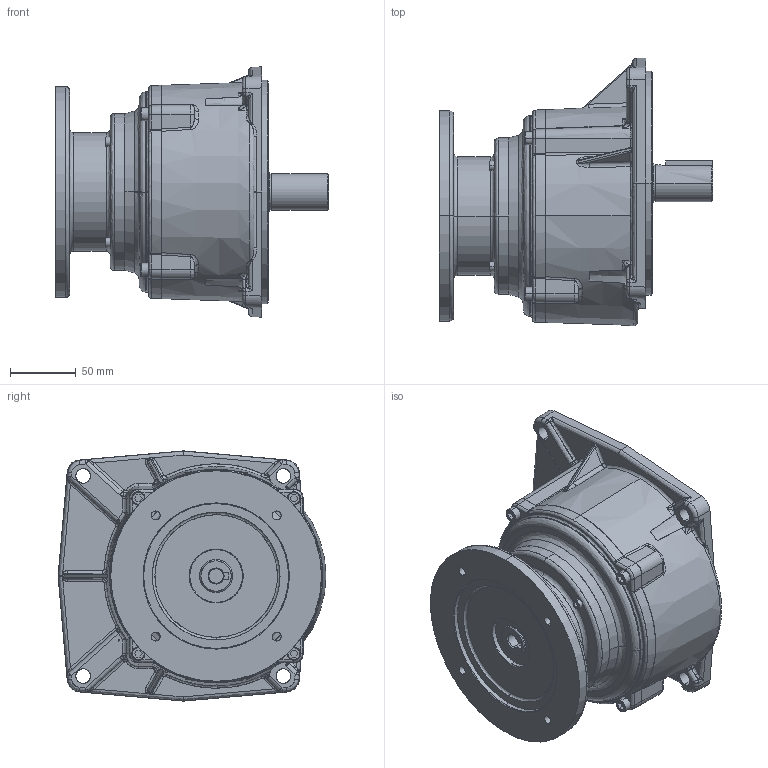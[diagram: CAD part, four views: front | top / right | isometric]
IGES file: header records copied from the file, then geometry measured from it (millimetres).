
Start section: SolidWorks IGES file using analytic representation for surfaces
Bounding box: 208 x 203.34 x 190 mm (x, y, z)
Surface area: 260607.8 mm2 (no closed solid volume)
Topology: 0 solids, 0 shells, 699 faces, 9075 edges, 9060 vertices
Faces by surface type: bspline 446, revolution 253
